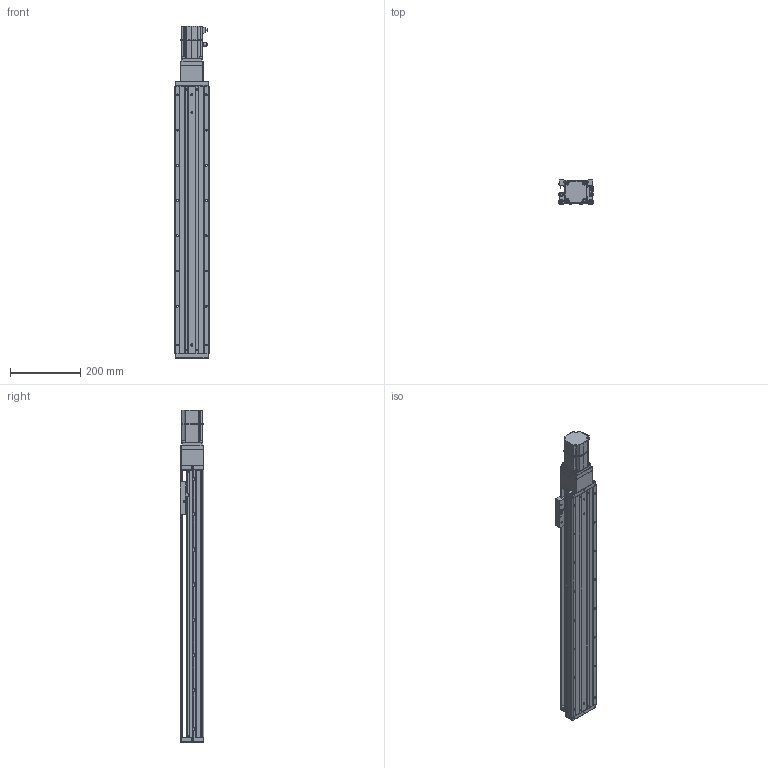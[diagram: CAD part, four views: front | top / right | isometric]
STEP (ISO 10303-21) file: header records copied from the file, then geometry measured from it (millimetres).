
FILE_DESCRIPTION (( 'STEP AP203' ), '1' );
FILE_NAME ('KTHA100-600-BC-M20-C4L.step', '2022-04-26T01:45:04', ( '微软用户' ), ( '微软中国' ), 'SwSTEP 2.0', 'SolidWorks 2020', '' );
FILE_SCHEMA (( 'CONFIG_CONTROL_DESIGN' ));
Length unit declared in the file: millimetre
Products named in the file (18): EE_SX911P_R; GBT 70.3-M3℅6; CTHA60-017; _X2_4E0983F1_X0_200W_1; KTHA100-001_760; CTHA60-021; CTHA86-013; KTHA100-002; GBT77-2000 M3×3; CTHA86-027; KTHA100-004; GBT 70.1-M3℅6; CTHA86-006-1_CTHA86-006-2; KTHA100-005; GBT70.1 M5℅16; KTHA100-600-BC-M20-C4L; GB¨uT 70.2-M3¡Á5_M3¡Á6; CTHA60-016
Assembly tree (56 placements, depth 2):
  KTHA100-600-BC-M20-C4L
    KTHA100-001_760
    KTHA100-002
    KTHA100-004
    KTHA100-005
    GB¨uT 70.2-M3¡Á5_M3¡Á6  x6
    EE_SX911P_R  x3
    CTHA60-017  x3
    CTHA60-021  x2
    GBT77-2000 M3×3  x6
    GBT 70.1-M3℅6  x6
    GBT70.1 M5℅16  x14
    CTHA60-016  x2
    GBT 70.3-M3℅6  x6
    _X2_4E0983F1_X0_200W_1
    CTHA86-013
    CTHA86-027
    CTHA86-006-1_CTHA86-006-2
Bounding box: 98.82 x 68 x 942.5 mm (x, y, z)
Volume: 3526012.6 mm3; surface area: 590395.2 mm2
Topology: 59 solids, 59 shells, 2407 faces, 5744 edges, 3544 vertices
Faces by surface type: plane 1227, cylinder 661, cone 330, torus 104, bspline 69, sphere 16
Entity records: 41598 total; most frequent: CARTESIAN_POINT 7975, DIRECTION 6549, ORIENTED_EDGE 6256, EDGE_CURVE 3128, AXIS2_PLACEMENT_3D 2290, LINE 1969, VECTOR 1969, VERTEX_POINT 1962
